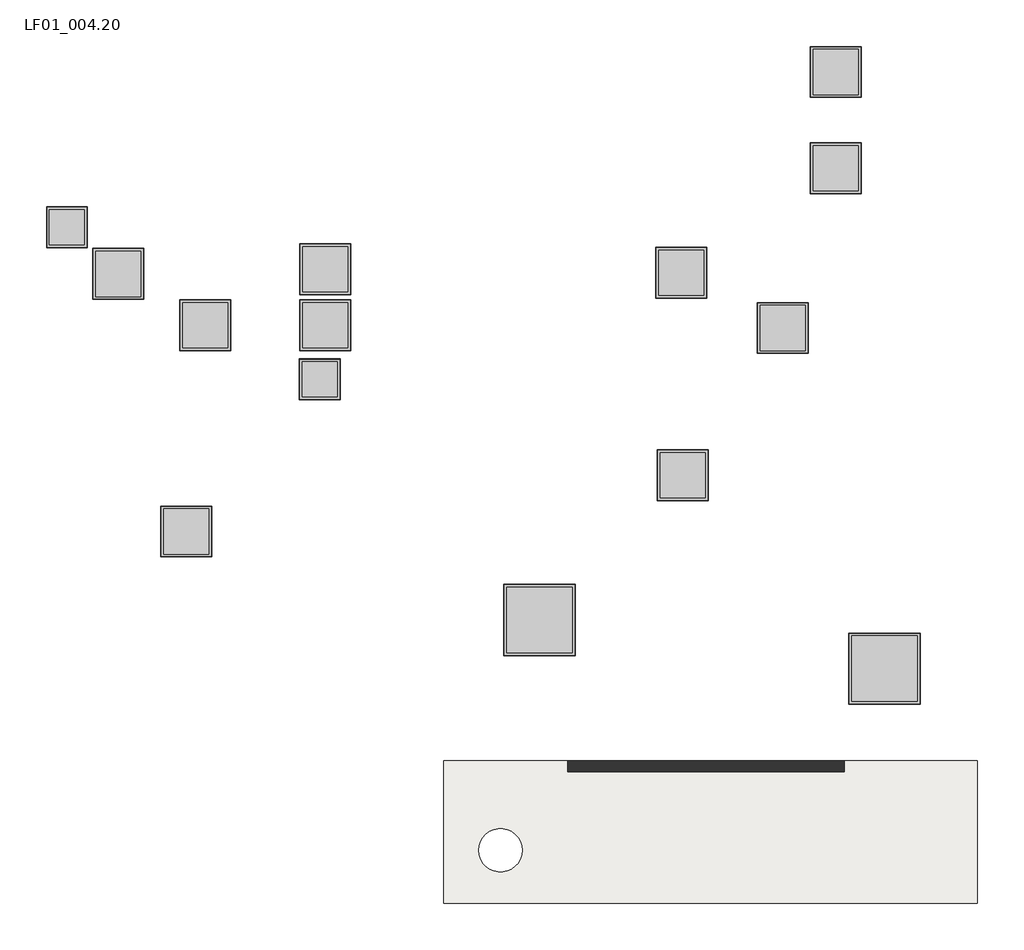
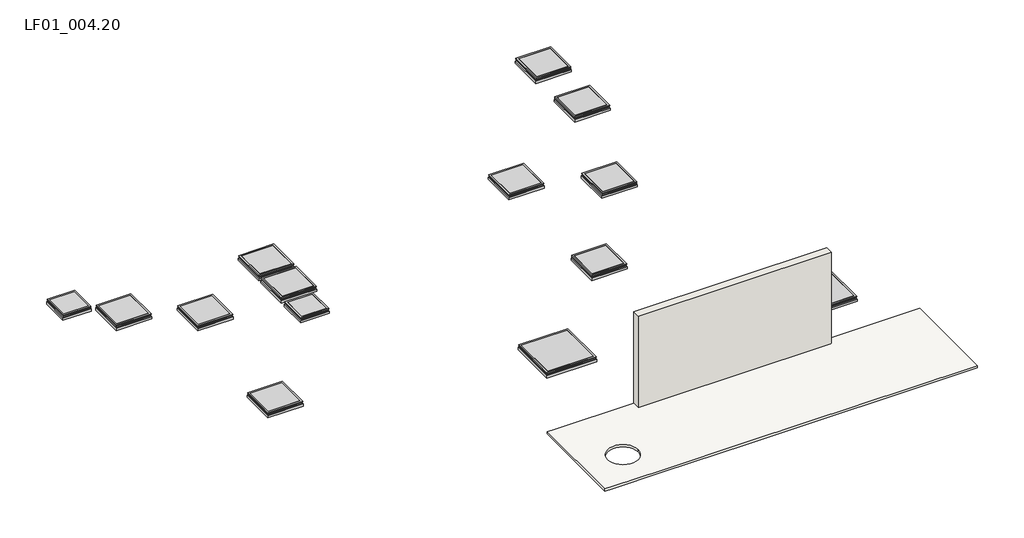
# One storey, incomplete: 14 proxies, 1 slab, 1 wall.
"""IFC4 building model written with IfcOpenShell, lengths in millimetres."""

from ifc_helpers import new_model, si_unit, frame, origin, place, context, project, spatial, polyline, circle_curve, outline, extrude, transform, mapped, element, save
from ifc_brep_helpers import plane_surface, revolved_surface, advanced_brep
from components import generic_models_d191a40d, generic_models_3f613b9e, generic_models_cb4ec72e

model = new_model("IFC4")

# Units and contexts
model_context = context("Model", 3, world=origin())
ifc_project = project(units=[si_unit("LENGTHUNIT", "METRE", prefix="MILLI")], contexts=[model_context])

# Site, building, storey
site = spatial("IfcSite", under=ifc_project)
building = spatial("IfcBuilding", under=site)
storey = spatial("IfcBuildingStorey", under=building, Name="LF01_004.20", Elevation=4200.0)

# Proxies
placement = place(None, origin())
generic_models_shape = generic_models_d191a40d(model_context)
element("IfcBuildingElementProxy", 1, Name="TRP_CP_ARC_FI_OR : AL_VE_150_150", ObjectType="TRP_CP_ARC_FI_OR : AL_VE_150_150", at=placement, inside=storey, context=model_context, shape_type="MappedRepresentation", body=[
    mapped(generic_models_shape, transform((-94865.9378883, 15585.151655, 200.0), x_axis=(1.0, 0.0, 0.0), y_axis=(0.0, 1.0, 0.0), z_axis=(0.0, 0.0, 1.0))),
])
element("IfcBuildingElementProxy", 2, Name="TRP_CP_ARC_FI_OR : AL_VE_150_150", ObjectType="TRP_CP_ARC_FI_OR : AL_VE_150_150", at=placement, inside=storey, context=model_context, shape_type="MappedRepresentation", body=[
    mapped(generic_models_shape, transform((-92295.9378883, 14076.3004162, 200.0), x_axis=(1.0, 0.0, 0.0), y_axis=(0.0, 1.0, 0.0), z_axis=(0.0, 0.0, 1.0))),
])
element("IfcBuildingElementProxy", 3, Name="TRP_CP_ARC_FI_OR : AL_VE_150_150", ObjectType="TRP_CP_ARC_FI_OR : AL_VE_150_150", at=placement, inside=storey, context=model_context, shape_type="MappedRepresentation", body=[
    mapped(generic_models_shape, transform((-88767.2250761, 14076.3004162, 200.0), x_axis=(1.0, 0.0, 0.0), y_axis=(0.0, 1.0, 0.0), z_axis=(0.0, 0.0, 1.0))),
])
element("IfcBuildingElementProxy", 4, Name="TRP_CP_ARC_FI_OR : AL_VE_150_150", ObjectType="TRP_CP_ARC_FI_OR : AL_VE_150_150", at=placement, inside=storey, context=model_context, shape_type="MappedRepresentation", body=[
    mapped(generic_models_shape, transform((-88767.2250761, 15724.8369227, 200.0), x_axis=(1.0, 0.0, 0.0), y_axis=(0.0, 1.0, 0.0), z_axis=(0.0, 0.0, 1.0))),
])
element("IfcBuildingElementProxy", 5, Name="TRP_CP_ARC_FI_OR : AL_VE_150_150", ObjectType="TRP_CP_ARC_FI_OR : AL_VE_150_150", at=placement, inside=storey, context=model_context, shape_type="MappedRepresentation", body=[
    mapped(generic_models_shape, transform((-92855.9378883, 7998.59605, 200.0), x_axis=(1.0, 0.0, 0.0), y_axis=(0.0, 1.0, 0.0), z_axis=(0.0, 0.0, 1.0))),
])
element("IfcBuildingElementProxy", 6, Name="TRP_CP_ARC_FI_OR : AL_VE_150_150", ObjectType="TRP_CP_ARC_FI_OR : AL_VE_150_150", at=placement, inside=storey, context=model_context, shape_type="MappedRepresentation", body=[
    mapped(generic_models_shape, transform((-78233.8041259, 9651.1366691, 200.0), x_axis=(1.0, 0.0, 0.0), y_axis=(0.0, 1.0, 0.0), z_axis=(0.0, 0.0, 1.0))),
])
element("IfcBuildingElementProxy", 7, Name="TRP_CP_ARC_FI_OR : AL_VE_150_150", ObjectType="TRP_CP_ARC_FI_OR : AL_VE_150_150", at=placement, inside=storey, context=model_context, shape_type="MappedRepresentation", body=[
    mapped(generic_models_shape, transform((-75293.8490132, 13992.6425038, 200.0), x_axis=(1.0, 0.0, 0.0), y_axis=(0.0, 1.0, 0.0), z_axis=(0.0, 0.0, 1.0))),
])
element("IfcBuildingElementProxy", 8, Name="TRP_CP_ARC_FI_OR : AL_VE_150_150", ObjectType="TRP_CP_ARC_FI_OR : AL_VE_150_150", at=placement, inside=storey, context=model_context, shape_type="MappedRepresentation", body=[
    mapped(generic_models_shape, transform((-78283.1666182, 15619.5541141, 200.0), x_axis=(1.0, 0.0, 0.0), y_axis=(0.0, 1.0, 0.0), z_axis=(0.0, 0.0, 1.0))),
])
element("IfcBuildingElementProxy", 9, Name="TRP_CP_ARC_FI_OR : AL_VE_150_150", ObjectType="TRP_CP_ARC_FI_OR : AL_VE_150_150", at=placement, inside=storey, context=model_context, shape_type="MappedRepresentation", body=[
    mapped(generic_models_shape, transform((-73723.1666182, 18702.1310895, 200.0), x_axis=(1.0, 0.0, 0.0), y_axis=(0.0, 1.0, 0.0), z_axis=(0.0, 0.0, 1.0))),
])
element("IfcBuildingElementProxy", 10, Name="TRP_CP_ARC_FI_OR : AL_VE_150_150", ObjectType="TRP_CP_ARC_FI_OR : AL_VE_150_150", at=placement, inside=storey, context=model_context, shape_type="MappedRepresentation", body=[
    mapped(generic_models_shape, transform((-73723.1666182, 21533.1448626, 200.0), x_axis=(1.0, 0.0, 0.0), y_axis=(0.0, 1.0, 0.0), z_axis=(0.0, 0.0, 1.0))),
])
generic_models_2_shape = generic_models_3f613b9e(model_context)
element("IfcBuildingElementProxy", 11, Name="TRP_CP_ARC_FI_OR : AL_VE_210_210", ObjectType="TRP_CP_ARC_FI_OR : AL_VE_210_210", at=placement, inside=storey, context=model_context, shape_type="MappedRepresentation", body=[
    mapped(generic_models_2_shape, transform((-82455.9378883, 5388.0122111, 200.0), x_axis=(1.0, 0.0, 0.0), y_axis=(0.0, 1.0, 0.0), z_axis=(0.0, 0.0, 1.0))),
])
element("IfcBuildingElementProxy", 12, Name="TRP_CP_ARC_FI_OR : AL_VE_210_210", ObjectType="TRP_CP_ARC_FI_OR : AL_VE_210_210", at=placement, inside=storey, context=model_context, shape_type="MappedRepresentation", body=[
    mapped(generic_models_2_shape, transform((-72290.7952132, 3958.485144, 200.0), x_axis=(1.0, 0.0, 0.0), y_axis=(0.0, 1.0, 0.0), z_axis=(0.0, 0.0, 1.0))),
])
generic_models_3_shape = generic_models_cb4ec72e(model_context)
element("IfcBuildingElementProxy", 13, Name="TRP_CP_ARC_FI_OR : AL_VE_110_110", ObjectType="TRP_CP_ARC_FI_OR : AL_VE_110_110", at=placement, inside=storey, context=model_context, shape_type="MappedRepresentation", body=[
    mapped(generic_models_3_shape, transform((-96373.9533623, 16959.9684677, 200.0), x_axis=(1.0, 0.0, 0.0), y_axis=(0.0, 1.0, 0.0), z_axis=(0.0, 0.0, 1.0))),
])
element("IfcBuildingElementProxy", 14, Name="TRP_CP_ARC_FI_OR : AL_VE_110_110", ObjectType="TRP_CP_ARC_FI_OR : AL_VE_110_110", at=placement, inside=storey, context=model_context, shape_type="MappedRepresentation", body=[
    mapped(generic_models_3_shape, transform((-88927.2250761, 12479.9684677, 200.0), x_axis=(1.0, 0.0, 0.0), y_axis=(0.0, 1.0, 0.0), z_axis=(0.0, 0.0, 1.0))),
])

# Slab
element("IfcSlab", 15, ObjectType="CS.Pv.M.04.gr (architettonico)", at=placement, inside=storey, context=model_context, shape_type="AdvancedBrep", body=[
    advanced_brep(
    [(-85268.6351, 1253.401192, 4361.0), (-84938.6351, 1253.401192, 4361.0), (-81624.6132945, 1253.401192, 4361.0), (-73474.6132945, 1253.401192, 4361.0), (-69553.995124, 1253.401192, 4361.0), (-69553.995124, -2956.598808, 4361.0), (-69883.995124, -2956.598808, 4361.0), (-79272.4250396, -2956.598808, 4361.0), (-82876.4250396, -2956.598808, 4361.0), (-84938.6351, -2956.598808, 4361.0), (-85268.6351, -2956.598808, 4361.0), (-84244.7012053, -1390.9552515, 4361.0), (-82964.7012053, -1390.9552515, 4361.0), (-85268.6351, 1253.401192, 4460.0), (-85268.6351, -2956.598808, 4460.0), (-84938.6351, -2956.598808, 4460.0), (-82876.4250396, -2956.598808, 4460.0), (-79272.4250396, -2956.598808, 4460.0), (-69883.995124, -2956.598808, 4460.0), (-69553.995124, -2956.598808, 4460.0), (-69553.995124, 1253.401192, 4460.0), (-73474.6132945, 1253.401192, 4460.0), (-81624.6132945, 1253.401192, 4460.0), (-84938.6351, 1253.401192, 4460.0), (-84244.7012053, -1390.9552515, 4460.0), (-82964.7012053, -1390.9552515, 4460.0)],
    [
        (0, 1),
        (1, 2),
        (2, 3),
        (3, 4),
        (4, 5),
        (5, 6),
        (6, 7),
        (7, 8),
        (8, 9),
        (9, 10),
        (10, 0),
        (11, 12, circle_curve(frame((-83604.7012053, -1390.9552515, 4361.0), z_axis=(0.0, 0.0, 1.0), x_axis=(1.0, 0.0, 0.0)), 640.0)),
        (12, 11, circle_curve(frame((-83604.7012053, -1390.9552515, 4361.0), z_axis=(0.0, 0.0, 1.0), x_axis=(1.0, 0.0, 0.0)), 640.0)),
        (13, 14),
        (14, 15),
        (15, 16),
        (16, 17),
        (17, 18),
        (18, 19),
        (19, 20),
        (20, 21),
        (21, 22),
        (22, 23),
        (23, 13),
        (24, 25, circle_curve(frame((-83604.7012053, -1390.9552515, 4460.0), z_axis=(0.0, 0.0, -1.0), x_axis=(1.0, 0.0, 0.0)), 640.0)),
        (25, 24, circle_curve(frame((-83604.7012053, -1390.9552515, 4460.0), z_axis=(0.0, 0.0, -1.0), x_axis=(1.0, 0.0, 0.0)), 640.0)),
        (0, 13),
        (20, 4),
        (19, 5),
        (14, 10),
        (11, 24),
        (25, 12),
    ],
    [
        plane_surface(frame((-73474.6132945, 1253.401192, 4361.0), z_axis=(0.0, 0.0, -1.0), x_axis=(1.0, 0.0, 0.0))),
        plane_surface(frame((-73474.6132945, 1253.401192, 4460.0), z_axis=(0.0, 0.0, 1.0), x_axis=(-1.0, 0.0, 0.0))),
        plane_surface(frame((-85268.6351, 1253.401192, 4361.0), z_axis=(0.0, 1.0, 0.0), x_axis=(0.0, 0.0, 1.0))),
        plane_surface(frame((-69553.995124, 1253.401192, 4361.0), z_axis=(1.0, 0.0, 0.0), x_axis=(0.0, 0.0, 1.0))),
        plane_surface(frame((-69553.995124, -2956.598808, 4361.0), z_axis=(0.0, -1.0, 0.0), x_axis=(0.0, 0.0, 1.0))),
        plane_surface(frame((-85268.6351, -2956.598808, 4361.0), z_axis=(-1.0, 0.0, 0.0), x_axis=(0.0, 0.0, 1.0))),
        revolved_surface(polyline([(-82964.7012053, -1390.9552515, 4460.0), (-82964.7012053, -1390.9552515, 4361.0)]), (-83604.7012053, -1390.9552515, 4200.0), (0.0, 0.0, 1.0)),
    ],
    [
        (0, [[1, 2, 3, 4, 5, 6, 7, 8, 9, 10, 11], [12, 13]]),
        (1, [[14, 15, 16, 17, 18, 19, 20, 21, 22, 23, 24], [25, 26]]),
        (2, [[-4, -3, -2, -1, 27, -24, -23, -22, -21, 28]]),
        (3, [[-5, -28, -20, 29]]),
        (4, [[-10, -9, -8, -7, -6, -29, -19, -18, -17, -16, -15, 30]]),
        (5, [[-11, -30, -14, -27]]),
        (6, [[-12, 31, -26, 32]]),
        (6, [[-13, -32, -25, -31]]),
    ],
),
])

# Wall
element("IfcWall", 16, ObjectType="T7", at=placement, inside=storey, context=model_context, shape_type="SweptSolid", body=[
    extrude(outline(polyline([(-73474.6132945, 923.401192), (-81624.6132945, 923.401192), (-81624.6132945, 1253.401192), (-73474.6132945, 1253.401192), (-73474.6132945, 923.401192)])), frame((0.0, 0.0, 4200.0), z_axis=(0.0, 0.0, 1.0), x_axis=(1.0, 0.0, 0.0)), (0.0, 0.0, 1.0), 161.0),
    extrude(outline(polyline([(-73474.6132945, 923.401192), (-81624.6132945, 923.401192), (-81624.6132945, 1253.401192), (-73474.6132945, 1253.401192), (-73474.6132945, 923.401192)])), frame((0.0, 0.0, 4460.0), z_axis=(0.0, 0.0, 1.0), x_axis=(1.0, 0.0, 0.0)), (0.0, 0.0, 1.0), 4080.0),
])

save(model, "model.ifc")
